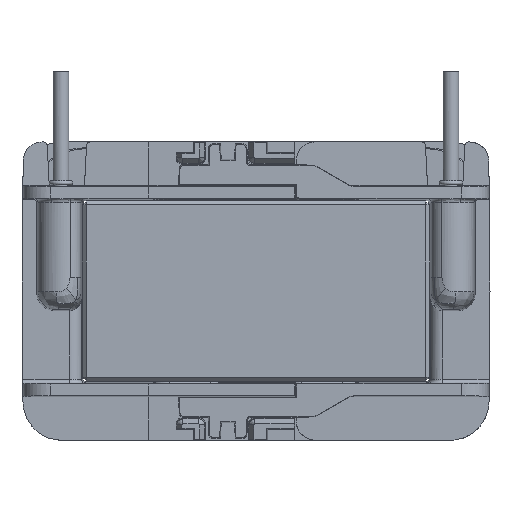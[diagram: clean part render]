
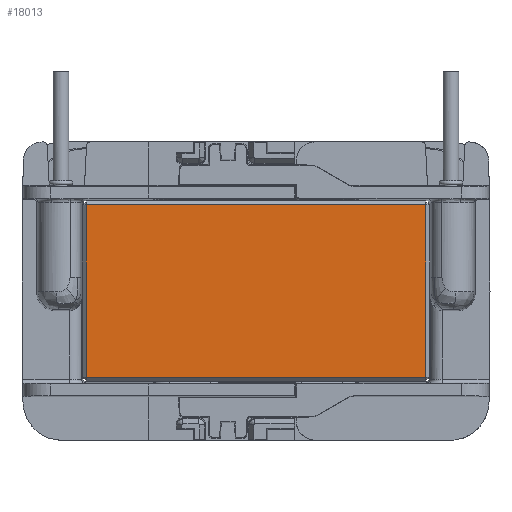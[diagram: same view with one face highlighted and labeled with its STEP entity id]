
A CAD part, left-side view. The second image highlights one B-rep face of the part: STEP entity #18013.
In plain terms, the highlighted planar face has unit normal (-1, 0, 0).
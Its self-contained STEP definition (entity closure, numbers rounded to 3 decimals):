
#579=PLANE('',#19539);
#2163=LINE('',#34616,#3831);
#2175=LINE('',#34639,#3843);
#2179=LINE('',#34645,#3847);
#2183=LINE('',#34651,#3851);
#3831=VECTOR('',#23985,10.);
#3843=VECTOR('',#24007,10.);
#3847=VECTOR('',#24015,10.);
#3851=VECTOR('',#24023,10.);
#5451=FACE_OUTER_BOUND('',#6409,.T.);
#6409=EDGE_LOOP('',(#15853,#15854,#15855,#15856));
#8407=VERTEX_POINT('',#34540);
#8429=VERTEX_POINT('',#34604);
#8432=VERTEX_POINT('',#34611);
#8436=VERTEX_POINT('',#34631);
#10874=EDGE_CURVE('',#8407,#8432,#2163,.T.);
#10886=EDGE_CURVE('',#8436,#8429,#2175,.T.);
#10890=EDGE_CURVE('',#8432,#8436,#2179,.T.);
#10894=EDGE_CURVE('',#8429,#8407,#2183,.T.);
#15853=ORIENTED_EDGE('',*,*,#10886,.F.);
#15854=ORIENTED_EDGE('',*,*,#10890,.F.);
#15855=ORIENTED_EDGE('',*,*,#10874,.F.);
#15856=ORIENTED_EDGE('',*,*,#10894,.F.);
#18013=ADVANCED_FACE('',(#5451),#579,.T.);
#19539=AXIS2_PLACEMENT_3D('',#34705,#24090,#24091);
#23985=DIRECTION('',(0.,0.,1.));
#24007=DIRECTION('',(0.,0.,-1.));
#24015=DIRECTION('',(0.,-1.,0.));
#24023=DIRECTION('',(0.,1.,0.));
#24090=DIRECTION('center_axis',(-1.,0.,0.));
#24091=DIRECTION('ref_axis',(0.,-1.,0.));
#34540=CARTESIAN_POINT('',(-7.15,8.7,-4.425));
#34604=CARTESIAN_POINT('',(-7.15,-8.7,-4.425));
#34611=CARTESIAN_POINT('',(-7.15,8.7,4.425));
#34616=CARTESIAN_POINT('',(-7.15,8.7,0.));
#34631=CARTESIAN_POINT('',(-7.15,-8.7,4.425));
#34639=CARTESIAN_POINT('',(-7.15,-8.7,0.));
#34645=CARTESIAN_POINT('',(-7.15,4.45,4.425));
#34651=CARTESIAN_POINT('',(-7.15,4.45,-4.425));
#34705=CARTESIAN_POINT('Origin',(-7.15,8.9,0.));
